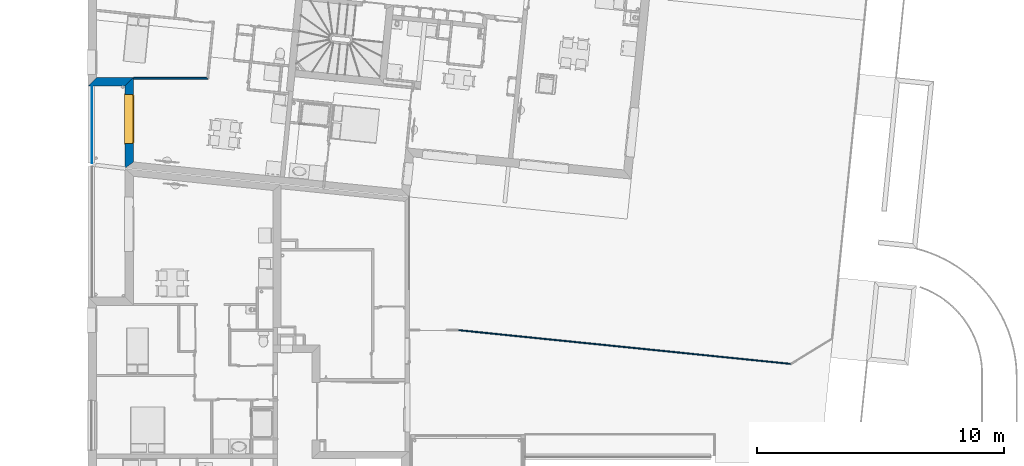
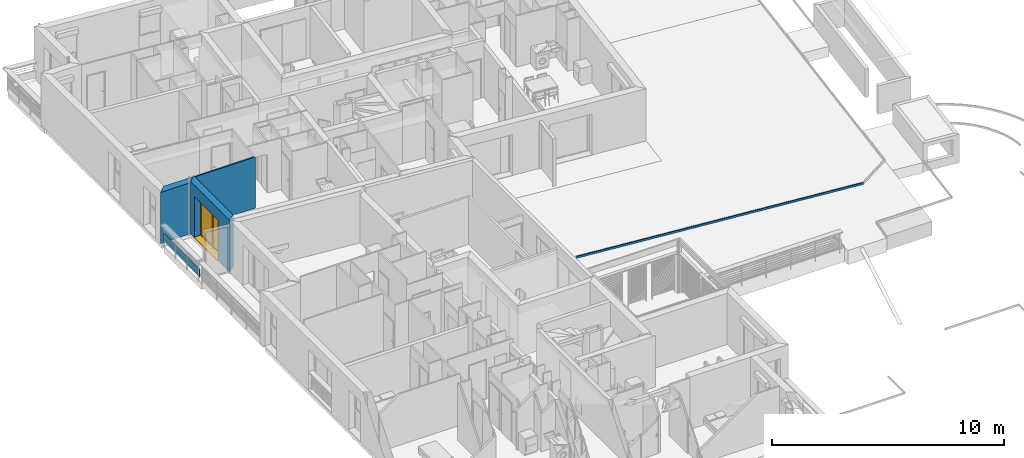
# One storey, part 60 of 171: 5 walls, 1 window, 1 opening.
"""IFC2X3 building model written with IfcOpenShell, lengths in millimetres."""

from ifc_helpers import new_model, entity, si_unit, converted_unit, derived_unit, money_unit, direction, frame, origin_with_axes, place, context, subcontext, project, spatial, polyline, outline, extrude, open_shell, faceted_brep, surface_model, source, transform, mapped, material, layer, layer_set, layer_usage, type_object, element, fill, save


model = new_model("IFC2X3")

# Units and contexts
model_context = context("Model", 3, precision=0.01, world=origin_with_axes(), true_north=direction((0.0, 1.0)))
body_context = subcontext(model_context, "Body", "Model", "MODEL_VIEW")
ifc_project = project(units=[si_unit("LENGTHUNIT", "METRE", prefix="MILLI"), si_unit("AREAUNIT", "SQUARE_METRE"), si_unit("VOLUMEUNIT", "CUBIC_METRE"), converted_unit("PLANEANGLEUNIT", "DEGREE", entity("IfcPlaneAngleMeasure", 0.0174532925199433), si_unit("PLANEANGLEUNIT", "RADIAN"), dimensions=[0, 0, 0, 0, 0, 0, 0]), money_unit("USD"), converted_unit("TIMEUNIT", "Year", entity("IfcTimeMeasure", 31557600.0), si_unit("TIMEUNIT", "SECOND"), dimensions=[0, 0, 1, 0, 0, 0, 0]), si_unit("MASSUNIT", "GRAM", prefix="KILO"), si_unit("THERMODYNAMICTEMPERATUREUNIT", "DEGREE_CELSIUS"), si_unit("LUMINOUSINTENSITYUNIT", "LUMEN"), si_unit("ENERGYUNIT", "JOULE", prefix="MEGA"), derived_unit("THERMALCONDUCTANCEUNIT", [(si_unit("POWERUNIT", "WATT"), 1), (si_unit("LENGTHUNIT", "METRE"), -1), (si_unit("THERMODYNAMICTEMPERATUREUNIT", "KELVIN"), -1)]), derived_unit("SPECIFICHEATCAPACITYUNIT", [(si_unit("ENERGYUNIT", "JOULE"), 1), (si_unit("MASSUNIT", "GRAM", prefix="KILO"), -1), (si_unit("THERMODYNAMICTEMPERATUREUNIT", "KELVIN"), -1)]), derived_unit("MASSDENSITYUNIT", [(si_unit("MASSUNIT", "GRAM", prefix="KILO"), 1), (si_unit("VOLUMEUNIT", "CUBIC_METRE"), -1)])], contexts=[model_context])

# Site, building, storey
site_placement = place(None, origin_with_axes())
site = spatial("IfcSite", under=ifc_project, at=site_placement, Name="Site", CompositionType="ELEMENT")
building_placement = place(site_placement, origin_with_axes())
building = spatial("IfcBuilding", under=site, at=building_placement, Name="Bâtiment", CompositionType="ELEMENT")
storey_placement = place(building_placement, frame((0.0, 0.0, 3000.0), z_axis=(0.0, 0.0, 1.0), x_axis=(1.0, 0.0, 0.0)))
storey = spatial("IfcBuildingStorey", under=building, at=storey_placement, Name="rdc", CompositionType="ELEMENT", Elevation=3000.0)

# Walls
ifc_material_1 = material(Name="Hachure solide 268963992")
ifc_layer_1 = layer(ifc_material_1, 50.0, ventilated="UNKNOWN")
ifc_layer_set_1 = layer_set([ifc_layer_1], Name="Cloison 50")
ifc_layer_usage_1 = layer_usage(ifc_layer_set_1, "AXIS2", "NEGATIVE", 50.0)
wall_type_1 = type_object("IfcWallType", Name="Cloison 50 50", PredefinedType="NOTDEFINED")
wall_1_placement = place(storey_placement, frame((2231630.226978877, -627438.3985087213, 0.0), z_axis=(0.0, 0.0, 1.0), x_axis=(0.994876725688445, -0.1010955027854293, 0.0)))
element("IfcWallStandardCase", 1, at=wall_1_placement, inside=storey, type_object=wall_type_1, material=ifc_layer_usage_1, Name="Mur-151", context=body_context, shape_type="SweptSolid", body=[
    extrude(outline(polyline([(0.0, 0.0), (13573.33894262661, 0.0), (13556.39075037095, 49.99999999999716), (-2.533878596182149, 49.99999999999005), (0.0, 0.0)])), origin_with_axes(), (0.0, 0.0, 1.0), 100.0),
])
ifc_layer_2 = layer(ifc_material_1, 70.0, ventilated="UNKNOWN")
ifc_layer_set_2 = layer_set([ifc_layer_2], Name="Cloison 70 0826278243")
ifc_layer_usage_2 = layer_usage(ifc_layer_set_2, "AXIS2", "NEGATIVE", 70.0)
wall_type_2 = type_object("IfcWallType", Name="Cloison 70 0826278243 70", PredefinedType="NOTDEFINED")
wall_2_placement = place(storey_placement, frame((2221518.482243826, -617167.5058083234, 0.0), z_axis=(0.0, 0.0, 1.0), x_axis=(-1.0, 0.0, 0.0)))
element("IfcWallStandardCase", 2, at=wall_2_placement, inside=storey, type_object=wall_type_2, material=ifc_layer_usage_2, Name="Mur-149", context=body_context, shape_type="SweptSolid", body=[
    extrude(outline(polyline([(70.36103416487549, 0.0), (3044.248898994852, 0.0), (3044.248898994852, 70.00000000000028), (7.118646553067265, 70.00000000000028), (70.36103416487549, 0.0)])), origin_with_axes(), (0.0, 0.0, 1.0), 2700.0),
])
ifc_material_2 = material(Name="MANQUANT")
ifc_layer_3 = layer(ifc_material_2, 20.0, ventilated="UNKNOWN")
ifc_layer_set_3 = layer_set([ifc_layer_3], Name="MANQUANT 20")
ifc_layer_usage_3 = layer_usage(ifc_layer_set_3, "AXIS2", "NEGATIVE", 20.0)
wall_type_3 = type_object("IfcWallType", Name="MANQUANT 20", PredefinedType="NOTDEFINED")
wall_3_placement = place(storey_placement, frame((2216794.996025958, -620644.9635044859, 100.0000000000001), z_axis=(0.0, 0.0, 1.0), x_axis=(1.325468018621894e-06, 0.9999999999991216, 0.0)))
element("IfcWallStandardCase", 3, at=wall_3_placement, inside=storey, type_object=wall_type_3, material=ifc_layer_usage_3, Name="Mur-152", context=body_context, shape_type="SweptSolid", body=[
    extrude(outline(polyline([(0.0, 0.0), (3137.457696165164, 0.0), (3137.457669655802, 19.99999999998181), (0.0, 20.0000000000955), (0.0, 0.0)])), origin_with_axes(), (0.0, 0.0, 1.0), 400.0),
])
ifc_material_3 = material(Name="Parpaing 312445824")
ifc_layer_4 = layer(ifc_material_3, 180.0, ventilated="UNKNOWN")
ifc_material_4 = material(Name="Isolant styromousse 301821074")
ifc_layer_5 = layer(ifc_material_4, 160.0, ventilated="UNKNOWN")
ifc_layer_set_4 = layer_set([ifc_layer_4, ifc_layer_5], Name="isol int 18+16 0018356637")
ifc_layer_usage_4 = layer_usage(ifc_layer_set_4, "AXIS2", "POSITIVE", 0.0)
wall_type_4 = type_object("IfcWallType", Name="isol int 18+16 0018356637 340", PredefinedType="NOTDEFINED")
wall_4_placement = place(storey_placement, frame((2216634.23334483, -617507.5058083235, 0.0), z_axis=(0.0, 0.0, 1.0), x_axis=(1.0, 0.0, 0.0)))
element("IfcWallStandardCase", 4, at=wall_4_placement, inside=storey, type_object=wall_type_4, material=ifc_layer_usage_4, Name="Mur-142", context=body_context, shape_type="SweptSolid", body=[
    extrude(outline(polyline([(0.0, 0.0), (1500.000000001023, 0.0), (1840.000000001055, 340.0000000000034), (340.0000000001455, 340.0000000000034), (0.0, 0.0)])), origin_with_axes(), (0.0, 0.0, 1.0), 2700.0),
])

# Wall, opening, window
ifc_layer_usage_5 = layer_usage(ifc_layer_set_4, "AXIS2", "POSITIVE", 0.0)
wall_5_placement = place(storey_placement, frame((2218134.233344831, -617507.5058083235, 0.0), z_axis=(0.0, 0.0, 1.0), x_axis=(0.0, -1.0, 0.0)))
wall_5 = element("IfcWallStandardCase", 5, at=wall_5_placement, inside=storey, type_object=wall_type_4, material=ifc_layer_usage_5, Name="Mur-143", context=body_context, shape_type="SweptSolid", body=[
    extrude(outline(polyline([(0.0, 0.0), (3334.290085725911, 0.0), (3087.400102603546, 340.0000000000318), (-340.0000000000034, 340.0000000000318), (0.0, 0.0)])), origin_with_axes(), (0.0, 0.0, 1.0), 2750.0),
])
opening_placement = place(wall_5_placement, frame((1346.722835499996, 0.0, 0.0), z_axis=(0.0, 0.0, 1.0), x_axis=(1.0, 0.0, 0.0)))
opening = element("IfcOpeningElement", 6, at=opening_placement, cuts=wall_5, Name="Fen-207", context=body_context, shape_type="Brep", body=[
    faceted_brep([(-1000.0, 290.0000000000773, 2150.0), (-1000.0, 341.0000000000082, 2150.0), (-1000.0, 341.0000000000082, 0.0), (-1000.0, 290.0000000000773, 0.0), (-1000.0, 280.0000000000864, 2150.0), (-1000.0, 280.0000000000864, 2400.0), (-1000.0, 530.0000000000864, 2400.0), (-1000.0, 530.0000000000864, 2150.0), (1000.0, 341.0000000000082, 2150.0), (1000.0, 341.0000000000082, 0.0), (1000.0, 290.0000000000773, 0.0), (1000.0, -0.9999999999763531, 0.0), (-1000.0, -0.9999999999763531, 0.0), (-1000.0, -0.9999999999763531, 2150.0), (1000.0, 280.0000000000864, 2150.0), (1000.0, 280.0000000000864, 2400.0), (1000.0, 530.0000000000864, 2400.0), (1000.0, 530.0000000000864, 2150.0), (1000.0, 290.0000000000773, 2150.0), (1000.0, -0.9999999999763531, 2150.0)], [[[0, 1, 2, 3]], [[1, 0, 4, 5, 6, 7]], [[1, 8, 9, 2]], [[10, 11, 12, 3, 2, 9]], [[4, 0, 3, 12, 13]], [[4, 14, 15, 5]], [[15, 16, 6, 5]], [[16, 17, 7, 6]], [[8, 1, 7, 17]], [[8, 18, 10, 9]], [[18, 14, 19, 11, 10]], [[13, 12, 11, 19]], [[14, 4, 13, 19]], [[18, 8, 17, 16, 15, 14]]]),
])
window_style = type_object("IfcWindowStyle", Name="Fenêtre châssis double variable 27", ConstructionType="NOTDEFINED", OperationType="DOUBLE_PANEL_VERTICAL", ParameterTakesPrecedence=False, Sizeable=False)
shared_shape = source(origin_with_axes(), body_context, "Body", "SurfaceModel", [
    surface_model("IfcShellBasedSurfaceModel", [(1000.0, -51.00000000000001, 40.00000000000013), (1000.0, -51.00000000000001, 50.00000000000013), (-1000.0, -51.00000000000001, 50.0), (-1000.0, -51.00000000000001, 40.0), (1030.0, -369.9999999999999, 28.96551724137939), (1030.0, -339.9999999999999, 30.00324289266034), (1000.0, -339.9999999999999, 30.00324289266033), (-1000.0, -339.9999999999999, 30.00324289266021), (-1030.0, -339.9999999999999, 30.00324289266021), (-1030.0, -369.9999999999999, 28.96551724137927), (1030.0, -369.9999999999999, 8.965517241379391), (-1030.0, -369.9999999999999, 8.965517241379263), (1030.0, -359.9999999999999, 18.96551724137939), (-1030.0, -359.9999999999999, 18.96551724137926)], [open_shell([[[0, 1, 2, 3]], [[4, 5, 6, 0, 3, 7, 8, 9]], [[10, 4, 9, 11]], [[12, 10, 11, 13]]])]),
    faceted_brep([(-1000.0, -60.00000000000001, 2400.0), (-997.0, -60.00000000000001, 2400.0), (-997.0, 190.0, 2400.0), (-1000.0, 190.0, 2400.0), (-1000.0, -60.00000000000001, 2150.0), (-997.0, -60.00000000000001, 2150.0), (-997.0, 190.0, 2150.0), (-1000.0, 190.0, 2150.0)], [[[0, 1, 2, 3]], [[4, 5, 1, 0]], [[1, 5, 6, 2]], [[3, 2, 6, 7]], [[0, 3, 7, 4]], [[7, 6, 5, 4]]]),
    faceted_brep([(997.0000000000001, -59.99999999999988, 2400.0), (1000.0, -59.99999999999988, 2400.0), (1000.0, 190.0000000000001, 2400.0), (997.0000000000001, 190.0000000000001, 2400.0), (997.0000000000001, -59.99999999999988, 2150.0), (1000.0, -59.99999999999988, 2150.0), (1000.0, 190.0000000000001, 2150.0), (997.0000000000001, 190.0000000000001, 2150.0)], [[[0, 1, 2, 3]], [[4, 5, 1, 0]], [[1, 5, 6, 2]], [[3, 2, 6, 7]], [[0, 3, 7, 4]], [[7, 6, 5, 4]]]),
    faceted_brep([(-997.0, -60.0, 2150.0), (997.0, -59.99999999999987, 2150.0), (997.0, -59.99999999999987, 2400.0), (-997.0, -60.0, 2400.0), (-997.0, -56.99999999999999, 2150.0), (997.0, -56.99999999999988, 2150.0), (997.0, -56.99999999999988, 2397.0), (997.0, 187.0000000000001, 2397.0), (997.0, 187.0000000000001, 2153.0), (997.0, -37.99999999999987, 2153.0), (997.0, -37.99999999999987, 2150.0), (997.0, 190.0000000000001, 2150.0), (997.0, 190.0000000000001, 2400.0), (-997.0, 190.0, 2400.0), (-997.0, 190.0, 2150.0), (-997.0, -37.99999999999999, 2150.0), (-997.0, -37.99999999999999, 2153.0), (-997.0, 187.0, 2153.0), (-997.0, 187.0, 2397.0), (-997.0, -56.99999999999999, 2397.0)], [[[0, 1, 2, 3]], [[4, 5, 1, 0]], [[1, 5, 6, 7, 8, 9, 10, 11, 12, 2]], [[3, 2, 12, 13]], [[0, 3, 13, 14, 15, 16, 17, 18, 19, 4]], [[19, 6, 5, 4]], [[18, 7, 6, 19]], [[17, 8, 7, 18]], [[16, 9, 8, 17]], [[15, 10, 9, 16]], [[14, 11, 10, 15]], [[13, 12, 11, 14]]]),
    faceted_brep([(-994.0, -40.37442957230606, 2256.419644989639), (-994.0, -41.99999999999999, 2275.0), (-994.0, -40.37442957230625, 2293.580355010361), (-994.0, -35.54711042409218, 2311.596155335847), (-994.0, -27.66471820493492, 2328.5), (-994.0, -16.96675541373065, 2343.77827423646), (-994.0, -3.778274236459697, 2356.96675541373), (-994.0, 11.5, 2367.664718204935), (-994.0, 28.40384466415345, 2375.547110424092), (-994.0, 46.41964498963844, 2380.374429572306), (-994.0, 64.99999999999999, 2382.0), (-994.0, 83.58035501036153, 2380.374429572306), (-994.0, 101.5961553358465, 2375.547110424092), (-994.0, 118.5, 2367.664718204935), (-994.0, 133.7782742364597, 2356.96675541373), (-994.0, 146.9667554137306, 2343.77827423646), (-994.0, 157.6647182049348, 2328.5), (-994.0, 165.5471104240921, 2311.596155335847), (-994.0, 170.3744295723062, 2293.580355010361), (-994.0, 171.9999999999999, 2275.0), (-994.0, 170.3744295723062, 2256.419644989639), (-994.0, 165.5471104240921, 2238.403844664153), (-994.0, 157.6647182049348, 2221.5), (-994.0, 146.9667554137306, 2206.22172576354), (-994.0, 133.7782742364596, 2193.033244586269), (-994.0, 118.4999999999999, 2182.335281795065), (-994.0, 101.5961553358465, 2174.452889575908), (-994.0, 83.58035501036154, 2169.625570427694), (-994.0, 65.00000000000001, 2168.0), (-994.0, 46.4196449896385, 2169.625570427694), (-994.0, 28.40384466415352, 2174.452889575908), (-994.0, 11.50000000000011, 2182.335281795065), (-994.0, -3.778274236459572, 2193.033244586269), (-994.0, -16.9667554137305, 2206.22172576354), (-994.0, -27.66471820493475, 2221.5), (-994.0, -35.54711042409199, 2238.403844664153), (994.0, -40.37442957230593, 2256.419644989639), (994.0, -41.99999999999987, 2275.0), (994.0, -40.37442957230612, 2293.580355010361), (994.0, -35.54711042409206, 2311.596155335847), (994.0, -27.6647182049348, 2328.5), (994.0, -16.96675541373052, 2343.77827423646), (994.0, -3.778274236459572, 2356.96675541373), (994.0, 11.50000000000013, 2367.664718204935), (994.0, 28.40384466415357, 2375.547110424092), (994.0, 46.41964498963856, 2380.374429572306), (994.0, 65.00000000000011, 2382.0), (994.0, 83.58035501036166, 2380.374429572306), (994.0, 101.5961553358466, 2375.547110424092), (994.0, 118.5000000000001, 2367.664718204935), (994.0, 133.7782742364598, 2356.96675541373), (994.0, 146.9667554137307, 2343.77827423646), (994.0, 157.664718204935, 2328.5), (994.0, 165.5471104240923, 2311.596155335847), (994.0, 170.3744295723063, 2293.580355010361), (994.0, 172.0, 2275.0), (994.0, 170.3744295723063, 2256.419644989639), (994.0, 165.5471104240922, 2238.403844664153), (994.0, 157.6647182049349, 2221.5), (994.0, 146.9667554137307, 2206.22172576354), (994.0, 133.7782742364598, 2193.033244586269), (994.0, 118.5000000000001, 2182.335281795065), (994.0, 101.5961553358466, 2174.452889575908), (994.0, 83.58035501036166, 2169.625570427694), (994.0, 65.00000000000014, 2168.0), (994.0, 46.41964498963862, 2169.625570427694), (994.0, 28.40384466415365, 2174.452889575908), (994.0, 11.50000000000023, 2182.335281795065), (994.0, -3.778274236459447, 2193.033244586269), (994.0, -16.96675541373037, 2206.22172576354), (994.0, -27.66471820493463, 2221.5), (994.0, -35.54711042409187, 2238.403844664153)], [[[0, 1, 2, 3, 4, 5, 6, 7, 8, 9, 10, 11, 12, 13, 14, 15, 16, 17, 18, 19, 20, 21, 22, 23, 24, 25, 26, 27, 28, 29, 30, 31, 32, 33, 34, 35]], [[0, 36, 37, 1]], [[1, 37, 38, 2]], [[2, 38, 39, 3]], [[3, 39, 40, 4]], [[4, 40, 41, 5]], [[5, 41, 42, 6]], [[6, 42, 43, 7]], [[7, 43, 44, 8]], [[8, 44, 45, 9]], [[9, 45, 46, 10]], [[10, 46, 47, 11]], [[11, 47, 48, 12]], [[12, 48, 49, 13]], [[13, 49, 50, 14]], [[14, 50, 51, 15]], [[15, 51, 52, 16]], [[16, 52, 53, 17]], [[17, 53, 54, 18]], [[18, 54, 55, 19]], [[19, 55, 56, 20]], [[20, 56, 57, 21]], [[21, 57, 58, 22]], [[22, 58, 59, 23]], [[23, 59, 60, 24]], [[24, 60, 61, 25]], [[25, 61, 62, 26]], [[26, 62, 63, 27]], [[27, 63, 64, 28]], [[28, 64, 65, 29]], [[29, 65, 66, 30]], [[30, 66, 67, 31]], [[31, 67, 68, 32]], [[32, 68, 69, 33]], [[33, 69, 70, 34]], [[34, 70, 71, 35]], [[35, 71, 36, 0]], [[36, 71, 70, 69, 68, 67, 66, 65, 64, 63, 62, 61, 60, 59, 58, 57, 56, 55, 54, 53, 52, 51, 50, 49, 48, 47, 46, 45, 44, 43, 42, 41, 40, 39, 38, 37]]]),
    faceted_brep([(1000.0, -34.99999999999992, 30.0), (1000.0, -34.99999999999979, 2150.0), (1000.0, -59.99999999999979, 2150.0), (1000.0, -59.99999999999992, 30.0), (975.0, -34.99999999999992, 30.0), (975.0, -34.99999999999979, 2150.0), (975.0, -37.99999999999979, 2150.0), (997.0, -37.99999999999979, 2150.0), (997.0, -56.99999999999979, 2150.0), (975.0, -56.99999999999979, 2150.0), (975.0, -59.99999999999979, 2150.0), (975.0, -59.99999999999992, 30.0), (975.0, -56.99999999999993, 30.0), (997.0, -56.99999999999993, 30.0), (997.0, -37.99999999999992, 30.0), (975.0, -37.99999999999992, 30.0)], [[[0, 1, 2, 3]], [[4, 5, 1, 0]], [[1, 5, 6, 7, 8, 9, 10, 2]], [[3, 2, 10, 11]], [[0, 3, 11, 12, 13, 14, 15, 4]], [[15, 6, 5, 4]], [[14, 7, 6, 15]], [[13, 8, 7, 14]], [[12, 9, 8, 13]], [[11, 10, 9, 12]]]),
    faceted_brep([(-1000.0, -34.99999999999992, 30.0), (-1000.0, -59.99999999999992, 30.0), (-1000.0, -59.99999999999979, 2150.0), (-1000.0, -34.99999999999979, 2150.0), (-975.0, -34.99999999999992, 30.0), (-975.0, -37.99999999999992, 30.0), (-997.0, -37.99999999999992, 30.0), (-997.0, -56.99999999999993, 30.0), (-975.0, -56.99999999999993, 30.0), (-975.0, -59.99999999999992, 30.0), (-975.0, -59.99999999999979, 2150.0), (-975.0, -56.99999999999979, 2150.0), (-997.0, -56.99999999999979, 2150.0), (-997.0, -37.99999999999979, 2150.0), (-975.0, -37.99999999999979, 2150.0), (-975.0, -34.99999999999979, 2150.0)], [[[0, 1, 2, 3]], [[0, 4, 5, 6, 7, 8, 9, 1]], [[1, 9, 10, 2]], [[3, 2, 10, 11, 12, 13, 14, 15]], [[4, 0, 3, 15]], [[5, 4, 15, 14]], [[6, 5, 14, 13]], [[7, 6, 13, 12]], [[8, 7, 12, 11]], [[9, 8, 11, 10]]]),
    faceted_brep([(997.0, -46.66666666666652, 2275.0), (997.0, -46.66666666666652, 2266.666666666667), (-997.0, -46.66666666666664, 2266.666666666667), (-997.0, -46.66666666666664, 2275.0), (997.0, -51.66666666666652, 2275.0), (997.0, -51.66666666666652, 2266.666666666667), (997.0, -49.99999999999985, 2250.0), (997.0, -44.99999999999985, 2250.0), (-997.0, -44.99999999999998, 2250.0), (-997.0, -49.99999999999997, 2250.0), (-997.0, -51.66666666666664, 2266.666666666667), (-997.0, -51.66666666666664, 2275.0)], [[[0, 1, 2, 3]], [[4, 5, 6, 7, 1, 0]], [[2, 1, 7, 8]], [[3, 2, 8, 9, 10, 11]], [[3, 11, 4, 0]], [[10, 5, 4, 11]], [[9, 6, 5, 10]], [[8, 7, 6, 9]]]),
    faceted_brep([(-997.0, -44.99999999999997, 2250.0), (997.0, -44.99999999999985, 2250.0), (997.0, -46.66666666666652, 2233.333333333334), (-997.0, -46.66666666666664, 2233.333333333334), (-997.0, -49.99999999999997, 2250.0), (997.0, -49.99999999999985, 2250.0), (997.0, -51.66666666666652, 2233.333333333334), (997.0, -51.66666666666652, 2216.666666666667), (997.0, -49.99999999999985, 2200.0), (997.0, -44.99999999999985, 2200.0), (997.0, -46.66666666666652, 2216.666666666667), (-997.0, -46.66666666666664, 2216.666666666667), (-997.0, -44.99999999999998, 2200.0), (-997.0, -49.99999999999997, 2200.0), (-997.0, -51.66666666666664, 2216.666666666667), (-997.0, -51.66666666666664, 2233.333333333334)], [[[0, 1, 2, 3]], [[4, 5, 1, 0]], [[1, 5, 6, 7, 8, 9, 10, 2]], [[3, 2, 10, 11]], [[0, 3, 11, 12, 13, 14, 15, 4]], [[15, 6, 5, 4]], [[14, 7, 6, 15]], [[13, 8, 7, 14]], [[12, 9, 8, 13]], [[11, 10, 9, 12]]]),
    faceted_brep([(-997.0, -44.99999999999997, 2200.0), (997.0, -44.99999999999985, 2200.0), (997.0, -46.66666666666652, 2183.333333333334), (-997.0, -46.66666666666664, 2183.333333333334), (-997.0, -49.99999999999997, 2200.0), (997.0, -49.99999999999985, 2200.0), (997.0, -51.66666666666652, 2183.333333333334), (997.0, -51.66666666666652, 2166.666666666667), (997.0, -49.99999999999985, 2150.000000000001), (997.0, -44.99999999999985, 2150.000000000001), (997.0, -46.66666666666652, 2166.666666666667), (-997.0, -46.66666666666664, 2166.666666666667), (-997.0, -44.99999999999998, 2150.000000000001), (-997.0, -49.99999999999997, 2150.000000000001), (-997.0, -51.66666666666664, 2166.666666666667), (-997.0, -51.66666666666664, 2183.333333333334)], [[[0, 1, 2, 3]], [[4, 5, 1, 0]], [[1, 5, 6, 7, 8, 9, 10, 2]], [[3, 2, 10, 11]], [[0, 3, 11, 12, 13, 14, 15, 4]], [[15, 6, 5, 4]], [[14, 7, 6, 15]], [[13, 8, 7, 14]], [[12, 9, 8, 13]], [[11, 10, 9, 12]]]),
    faceted_brep([(-975.0, 0.0, 2100.0), (-1000.0, 0.0, 2100.0), (-1000.0, -50.00000000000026, 2100.0), (-950.0, -50.00000000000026, 2100.0), (-950.0, -25.00000000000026, 2100.0), (-975.0, -25.00000000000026, 2100.0), (-975.0, 0.0, 50.00000000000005), (-1000.0, 0.0, 50.00000000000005), (-1000.0, -50.00000000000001, 50.00000000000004), (-950.0, -50.00000000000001, 50.00000000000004), (-950.0, -25.00000000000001, 50.00000000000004), (-975.0, -25.00000000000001, 50.00000000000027)], [[[0, 1, 2, 3, 4, 5]], [[6, 7, 1, 0]], [[1, 7, 8, 2]], [[2, 8, 9, 3]], [[4, 3, 9, 10]], [[10, 11, 5, 4]], [[5, 11, 6, 0]], [[11, 10, 9, 8, 7, 6]]]),
    faceted_brep([(950.0, -25.00000000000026, 2100.0), (950.0, -50.00000000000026, 2100.0), (1000.0, -50.00000000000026, 2100.0), (1000.0, 0.0, 2100.0), (975.0, 0.0, 2100.0), (975.0, -25.00000000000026, 2100.0), (950.0, -25.00000000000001, 50.00000000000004), (950.0, -50.00000000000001, 50.00000000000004), (1000.0, -50.00000000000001, 50.00000000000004), (1000.0, 0.0, 50.00000000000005), (975.0, 0.0, 50.00000000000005), (975.0, -25.00000000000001, 50.00000000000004)], [[[0, 1, 2, 3, 4, 5]], [[6, 7, 1, 0]], [[8, 2, 1, 7]], [[9, 3, 2, 8]], [[4, 3, 9, 10]], [[10, 11, 5, 4]], [[5, 11, 6, 0]], [[11, 10, 9, 8, 7, 6]]]),
    faceted_brep([(950.0, -25.00000000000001, 50.00000000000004), (950.0, -50.00000000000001, 50.00000000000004), (1000.0, -50.00000000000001, 50.00000000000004), (1000.0, 0.0, 50.00000000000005), (975.0, 0.0, 50.00000000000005), (975.0, -25.00000000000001, 50.00000000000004), (-950.0, -25.00000000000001, 50.00000000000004), (-950.0, -50.00000000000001, 50.00000000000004), (-1000.0, -50.00000000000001, 50.00000000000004), (-1000.0, -50.0, 0.0), (1000.0, -50.0, 0.0), (1000.0, 0.0, 0.0), (-975.0, 0.0, 24.99999999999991), (975.0, 0.0, 24.99999999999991), (-1000.0, 0.0, 0.0), (-1000.0, 0.0, 50.00000000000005), (-975.0, 0.0, 50.00000000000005), (975.0, -25.0, 24.99999999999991), (-975.0, -25.0, 24.99999999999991), (-975.0, -25.00000000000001, 50.00000000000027)], [[[0, 1, 2, 3, 4, 5]], [[6, 7, 1, 0]], [[8, 9, 10, 2, 1, 7]], [[11, 3, 2, 10]], [[12, 13, 4, 3, 11, 14, 15, 16]], [[13, 17, 5, 4]], [[5, 17, 18, 19, 6, 0]], [[19, 16, 15, 8, 7, 6]], [[15, 14, 9, 8]], [[14, 11, 10, 9]], [[12, 18, 17, 13]], [[19, 18, 12, 16]]]),
    faceted_brep([(-975.0, 0.0, 2100.0), (-1000.0, 0.0, 2100.0), (-1000.0, 0.0, 2150.0), (1000.0, 0.0, 2150.0), (1000.0, 0.0, 2100.0), (975.0, 0.0, 2100.0), (975.0, 0.0, 2125.0), (-975.0, 0.0, 2125.0), (-975.0, -25.00000000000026, 2100.0), (-950.0, -25.00000000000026, 2100.0), (-950.0, -50.00000000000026, 2100.0), (-1000.0, -50.00000000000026, 2100.0), (-1000.0, -50.00000000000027, 2150.0), (1000.0, -50.00000000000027, 2150.0), (1000.0, -50.00000000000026, 2100.0), (975.0, -25.00000000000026, 2100.0), (950.0, -50.00000000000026, 2100.0), (950.0, -25.00000000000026, 2100.0), (975.0, -25.00000000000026, 2125.0), (-975.0, -25.00000000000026, 2125.0)], [[[0, 1, 2, 3, 4, 5, 6, 7]], [[8, 9, 10, 11, 1, 0]], [[2, 1, 11, 12]], [[3, 2, 12, 13]], [[4, 3, 13, 14]], [[15, 5, 4, 14, 16, 17]], [[5, 15, 18, 6]], [[6, 18, 19, 7]], [[7, 19, 8, 0]], [[17, 9, 8, 19, 18, 15]], [[17, 16, 10, 9]], [[14, 13, 12, 11, 10, 16]]]),
    faceted_brep([(-925.0, -25.00000000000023, 2075.0), (-925.0, 24.99999999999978, 2075.0), (-975.0, 24.99999999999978, 2075.0), (-975.0, -25.00000000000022, 2075.0), (-925.0, -24.99999999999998, 75.00000000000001), (-925.0, 25.00000000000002, 75.00000000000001), (-975.0, 25.00000000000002, 75.00000000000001), (-975.0, -24.99999999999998, 75.00000000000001)], [[[0, 1, 2, 3]], [[4, 5, 1, 0]], [[1, 5, 6, 2]], [[3, 2, 6, 7]], [[0, 3, 7, 4]], [[7, 6, 5, 4]]]),
    faceted_brep([(-49.99999999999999, -25.00000000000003, 75.00000000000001), (-49.99999999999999, 24.99999999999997, 75.00000000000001), (0.0, 24.99999999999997, 75.00000000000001), (0.0, -25.00000000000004, 75.00000000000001), (-49.99999999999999, -25.00000000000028, 2075.0), (-49.99999999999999, 24.99999999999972, 2075.0), (0.0, 24.99999999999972, 2075.0), (0.0, -25.00000000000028, 2075.0)], [[[0, 1, 2, 3]], [[4, 5, 1, 0]], [[1, 5, 6, 2]], [[3, 2, 6, 7]], [[0, 3, 7, 4]], [[7, 6, 5, 4]]]),
    faceted_brep([(0.0, -25.00000000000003, 25.0), (0.0, 24.99999999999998, 25.00000000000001), (0.0, 24.99999999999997, 75.00000000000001), (0.0, -25.00000000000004, 75.00000000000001), (-975.0, -24.99999999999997, 25.0), (-975.0, 25.00000000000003, 25.00000000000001), (-975.0, 25.00000000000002, 75.00000000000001), (-925.0, 25.00000000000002, 75.00000000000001), (-49.99999999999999, 24.99999999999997, 75.00000000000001), (-49.99999999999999, -25.00000000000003, 75.00000000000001), (-925.0, -24.99999999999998, 75.00000000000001), (-975.0, -24.99999999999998, 75.00000000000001)], [[[0, 1, 2, 3]], [[4, 5, 1, 0]], [[1, 5, 6, 7, 8, 2]], [[3, 2, 8, 9]], [[0, 3, 9, 10, 11, 4]], [[11, 6, 5, 4]], [[10, 7, 6, 11]], [[9, 8, 7, 10]]]),
    faceted_brep([(-975.0, -25.00000000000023, 2125.0), (-975.0, 24.99999999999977, 2125.0), (-975.0, 24.99999999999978, 2075.0), (-975.0, -25.00000000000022, 2075.0), (0.0, -25.00000000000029, 2125.0), (0.0, 24.99999999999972, 2125.0), (0.0, 24.99999999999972, 2075.0), (-49.99999999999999, 24.99999999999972, 2075.0), (-925.0, 24.99999999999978, 2075.0), (-925.0, -25.00000000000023, 2075.0), (-49.99999999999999, -25.00000000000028, 2075.0), (0.0, -25.00000000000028, 2075.0)], [[[0, 1, 2, 3]], [[4, 5, 1, 0]], [[1, 5, 6, 7, 8, 2]], [[3, 2, 8, 9]], [[0, 3, 9, 10, 11, 4]], [[11, 6, 5, 4]], [[10, 7, 6, 11]], [[9, 8, 7, 10]]]),
    surface_model("IfcShellBasedSurfaceModel", [(-925.0, -10.00000000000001, 75.00000000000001), (-49.99999999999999, -10.00000000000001, 75.00000000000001), (-49.99999999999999, -10.00000000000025, 2075.0), (-925.0, -10.00000000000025, 2075.0)], [open_shell([[[0, 1, 2, 3]]])]),
    surface_model("IfcShellBasedSurfaceModel", [(-925.0, 9.999999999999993, 75.00000000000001), (-925.0, 9.99999999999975, 2075.0), (-49.99999999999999, 9.99999999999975, 2075.0), (-49.99999999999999, 9.999999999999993, 75.00000000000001)], [open_shell([[[0, 1, 2, 3]]])]),
    faceted_brep([(49.99999999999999, -25.00000000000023, 2075.0), (49.99999999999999, 24.99999999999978, 2075.0), (0.0, 24.99999999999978, 2075.0), (0.0, -25.00000000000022, 2075.0), (49.99999999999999, -24.99999999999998, 75.00000000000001), (49.99999999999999, 25.00000000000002, 75.00000000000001), (0.0, 25.00000000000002, 75.00000000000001), (0.0, -24.99999999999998, 75.00000000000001)], [[[0, 1, 2, 3]], [[4, 5, 1, 0]], [[1, 5, 6, 2]], [[3, 2, 6, 7]], [[0, 3, 7, 4]], [[7, 6, 5, 4]]]),
    faceted_brep([(925.0, -25.00000000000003, 75.00000000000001), (925.0, 24.99999999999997, 75.00000000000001), (975.0, 24.99999999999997, 75.00000000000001), (975.0, -25.00000000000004, 75.00000000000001), (925.0, -25.00000000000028, 2075.0), (925.0, 24.99999999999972, 2075.0), (975.0, 24.99999999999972, 2075.0), (975.0, -25.00000000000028, 2075.0)], [[[0, 1, 2, 3]], [[4, 5, 1, 0]], [[1, 5, 6, 2]], [[3, 2, 6, 7]], [[0, 3, 7, 4]], [[7, 6, 5, 4]]]),
    faceted_brep([(975.0, -25.00000000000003, 25.0), (975.0, 24.99999999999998, 25.00000000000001), (975.0, 24.99999999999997, 75.00000000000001), (975.0, -25.00000000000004, 75.00000000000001), (0.0, -24.99999999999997, 25.0), (0.0, 25.00000000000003, 25.00000000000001), (0.0, 25.00000000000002, 75.00000000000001), (49.99999999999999, 25.00000000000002, 75.00000000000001), (925.0, 24.99999999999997, 75.00000000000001), (925.0, -25.00000000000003, 75.00000000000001), (49.99999999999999, -24.99999999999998, 75.00000000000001), (0.0, -24.99999999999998, 75.00000000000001)], [[[0, 1, 2, 3]], [[4, 5, 1, 0]], [[1, 5, 6, 7, 8, 2]], [[3, 2, 8, 9]], [[0, 3, 9, 10, 11, 4]], [[11, 6, 5, 4]], [[10, 7, 6, 11]], [[9, 8, 7, 10]]]),
    faceted_brep([(0.0, -25.00000000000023, 2125.0), (0.0, 24.99999999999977, 2125.0), (0.0, 24.99999999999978, 2075.0), (0.0, -25.00000000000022, 2075.0), (975.0, -25.00000000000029, 2125.0), (975.0, 24.99999999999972, 2125.0), (975.0, 24.99999999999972, 2075.0), (925.0, 24.99999999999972, 2075.0), (49.99999999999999, 24.99999999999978, 2075.0), (49.99999999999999, -25.00000000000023, 2075.0), (925.0, -25.00000000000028, 2075.0), (975.0, -25.00000000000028, 2075.0)], [[[0, 1, 2, 3]], [[4, 5, 1, 0]], [[1, 5, 6, 7, 8, 2]], [[3, 2, 8, 9]], [[0, 3, 9, 10, 11, 4]], [[11, 6, 5, 4]], [[10, 7, 6, 11]], [[9, 8, 7, 10]]]),
    surface_model("IfcShellBasedSurfaceModel", [(49.99999999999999, -10.00000000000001, 75.00000000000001), (925.0, -10.00000000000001, 75.00000000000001), (925.0, -10.00000000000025, 2075.0), (49.99999999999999, -10.00000000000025, 2075.0)], [open_shell([[[0, 1, 2, 3]]])]),
    surface_model("IfcShellBasedSurfaceModel", [(49.99999999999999, 9.999999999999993, 75.00000000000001), (49.99999999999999, 9.99999999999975, 2075.0), (925.0, 9.99999999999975, 2075.0), (925.0, 9.999999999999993, 75.00000000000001)], [open_shell([[[0, 1, 2, 3]]])]),
])
window_placement = place(opening_placement, frame((-1000.000000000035, 0.0, 0.0), z_axis=(0.0, 0.0, 1.0), x_axis=(1.0, 0.0, 0.0)))
window = element("IfcWindow", 7, at=window_placement, inside=storey, type_object=window_style, Name="Fen-207", OverallHeight=2150.0, OverallWidth=2000.0, context=body_context, shape_type="MappedRepresentation", body=[
    mapped(shared_shape, transform((1000.0, 340.0000000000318, 0.0))),
])
fill(opening, window)

save(model, "model.ifc")
